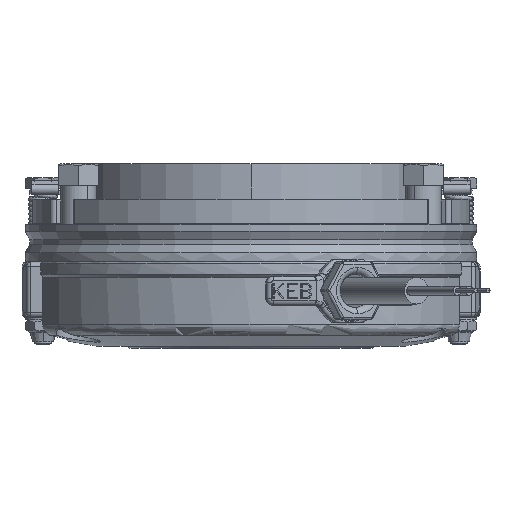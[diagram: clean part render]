
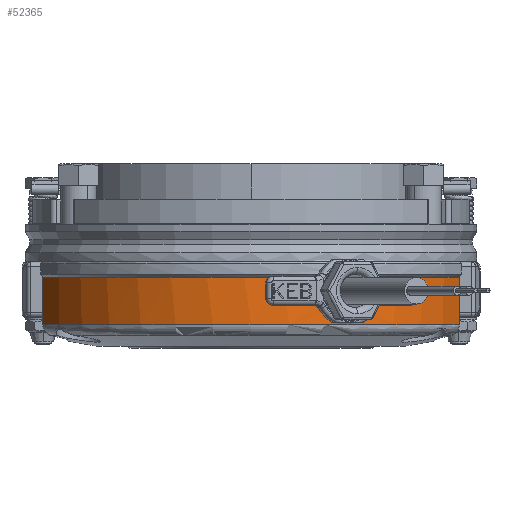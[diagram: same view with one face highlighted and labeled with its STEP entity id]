
A CAD part, front view. The second image highlights one B-rep face of the part: STEP entity #52365.
In plain terms, the highlighted cylindrical face has radius 50.25 mm (diameter 100.5 mm), a partial arc.
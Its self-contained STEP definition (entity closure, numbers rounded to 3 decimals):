
#894 = CARTESIAN_POINT ( 'NONE',  ( 47.044, -17.663, 16. ) ) ;
#1140 = CARTESIAN_POINT ( 'NONE',  ( 25.373, -43.374, 7.573 ) ) ;
#1192 = CARTESIAN_POINT ( 'NONE',  ( 14.603, -48.081, 14.006 ) ) ;
#1488 = CARTESIAN_POINT ( 'NONE',  ( 14.539, -48.101, 12.511 ) ) ;
#1501 = CARTESIAN_POINT ( 'NONE',  ( -47.044, -17.663, 16. ) ) ;
#2041 = CARTESIAN_POINT ( 'NONE',  ( 24.529, -43.857, 6.872 ) ) ;
#3084 = AXIS2_PLACEMENT_3D ( 'NONE', #7679, #8563, #49952 ) ;
#5692 = CARTESIAN_POINT ( 'NONE',  ( 24.749, -43.734, 7.031 ) ) ;
#6040 = CARTESIAN_POINT ( 'NONE',  ( 15.937, -47.657, 8.638 ) ) ;
#6336 = CARTESIAN_POINT ( 'NONE',  ( 14.568, -48.092, 13.705 ) ) ;
#6596 = CARTESIAN_POINT ( 'NONE',  ( 23.342, -44.501, 6.24 ) ) ;
#6769 = CARTESIAN_POINT ( 'NONE',  ( 0., 0., 5.287 ) ) ;
#6960 = CARTESIAN_POINT ( 'NONE',  ( 18.569, -46.694, 6.46 ) ) ;
#7476 = CARTESIAN_POINT ( 'NONE',  ( 27.274, -42.205, 11.038 ) ) ;
#7679 = CARTESIAN_POINT ( 'NONE',  ( 0., 0., 16. ) ) ;
#7786 = CARTESIAN_POINT ( 'NONE',  ( 26.941, -42.418, 16. ) ) ;
#7941 = CYLINDRICAL_SURFACE ( 'NONE', #16532, 50.25 ) ;
#8094 = CARTESIAN_POINT ( 'NONE',  ( 21.237, -45.542, 5.85 ) ) ;
#8369 = CARTESIAN_POINT ( 'NONE',  ( 27.308, -42.182, 14.886 ) ) ;
#8561 = DIRECTION ( 'NONE',  ( -1., 0., 0. ) ) ;
#8563 = DIRECTION ( 'NONE',  ( 0., 0., -1. ) ) ;
#8940 = CIRCLE ( 'NONE', #3084, 50.25 ) ;
#9239 = AXIS2_PLACEMENT_3D ( 'NONE', #6769, #37841, #33267 ) ;
#10231 = CARTESIAN_POINT ( 'NONE',  ( 23.835, -44.238, 6.46 ) ) ;
#10619 = CARTESIAN_POINT ( 'NONE',  ( 14.76, -48.033, 14.886 ) ) ;
#11140 = CARTESIAN_POINT ( 'NONE',  ( 21.782, -45.287, 5.85 ) ) ;
#11522 = CARTESIAN_POINT ( 'NONE',  ( 17.595, -47.07, 7.03 ) ) ;
#12743 = B_SPLINE_CURVE_WITH_KNOTS ( 'NONE', 3,
 ( #39206, #52358, #10619, #1192, #6336, #24888, #1488, #29191, #47780, #53244, #39496, #43795, #6040, #52939, #58046, #16059, #11522, #30088, #48676, #6960, #25481, #16379, #20022, #24587, #57470 ),
 .UNSPECIFIED., .F., .F.,
 ( 4, 2, 2, 1, 2, 2, 2, 2, 2, 2, 2, 2, 4 ),
 ( 0., 0.002, 0.003, 0.004, 0.004, 0.005, 0.007, 0.009, 0.01, 0.011, 0.012, 0.012, 0.014 ),
 .UNSPECIFIED. ) ;
#13210 = VERTEX_POINT ( 'NONE', #14740 ) ;
#13434 = LINE ( 'NONE', #59394, #54148 ) ;
#13447 = CARTESIAN_POINT ( 'NONE',  ( 15.177, -47.903, 16. ) ) ;
#14637 = EDGE_CURVE ( 'NONE', #42338, #23918, #46172, .T. ) ;
#14740 = CARTESIAN_POINT ( 'NONE',  ( 26.941, -42.418, 16. ) ) ;
#15088 = CARTESIAN_POINT ( 'NONE',  ( 26.264, -42.841, 8.639 ) ) ;
#15342 = FACE_OUTER_BOUND ( 'NONE', #21882, .T. ) ;
#16059 = CARTESIAN_POINT ( 'NONE',  ( 17.138, -47.238, 7.381 ) ) ;
#16306 = CARTESIAN_POINT ( 'NONE',  ( 27.115, -42.307, 10.472 ) ) ;
#16379 = CARTESIAN_POINT ( 'NONE',  ( 19.352, -46.375, 6.147 ) ) ;
#16444 = ORIENTED_EDGE ( 'NONE', *, *, #53493, .T. ) ;
#16532 = AXIS2_PLACEMENT_3D ( 'NONE', #55437, #56005, #22814 ) ;
#16956 = AXIS2_PLACEMENT_3D ( 'NONE', #23152, #18270, #8561 ) ;
#17014 = ORIENTED_EDGE ( 'NONE', *, *, #33981, .F. ) ;
#17701 = DIRECTION ( 'NONE',  ( 0., 0., 1. ) ) ;
#18270 = DIRECTION ( 'NONE',  ( 0., 0., -1. ) ) ;
#20022 = CARTESIAN_POINT ( 'NONE',  ( 20.151, -46.036, 5.925 ) ) ;
#20276 = CARTESIAN_POINT ( 'NONE',  ( 25.938, -43.041, 8.183 ) ) ;
#21882 = EDGE_LOOP ( 'NONE', ( #17014, #47480, #22494, #39527, #56509, #16444, #55696 ) ) ;
#22494 = ORIENTED_EDGE ( 'NONE', *, *, #54179, .T. ) ;
#22814 = DIRECTION ( 'NONE',  ( -1., 0., 0. ) ) ;
#23152 = CARTESIAN_POINT ( 'NONE',  ( 0., 0., 16. ) ) ;
#23918 = VERTEX_POINT ( 'NONE', #1501 ) ;
#24230 = CARTESIAN_POINT ( 'NONE',  ( 25.17, -43.492, 7.381 ) ) ;
#24521 = VECTOR ( 'NONE', #45484, 1000. ) ;
#24523 = CARTESIAN_POINT ( 'NONE',  ( 26.679, -42.583, 9.397 ) ) ;
#24587 = CARTESIAN_POINT ( 'NONE',  ( 20.691, -45.797, 5.85 ) ) ;
#24686 = VERTEX_POINT ( 'NONE', #60095 ) ;
#24828 = CARTESIAN_POINT ( 'NONE',  ( 24.072, -44.11, 6.587 ) ) ;
#24888 = CARTESIAN_POINT ( 'NONE',  ( 14.535, -48.102, 13.107 ) ) ;
#25481 = CARTESIAN_POINT ( 'NONE',  ( 19.086, -46.485, 6.24 ) ) ;
#26892 = CARTESIAN_POINT ( 'NONE',  ( -47.044, -17.663, -2.187 ) ) ;
#26920 = CARTESIAN_POINT ( 'NONE',  ( 27.156, -42.281, 15.453 ) ) ;
#29129 = CARTESIAN_POINT ( 'NONE',  ( 26.803, -42.505, 9.66 ) ) ;
#29191 = CARTESIAN_POINT ( 'NONE',  ( 14.614, -48.078, 11.92 ) ) ;
#29711 = CARTESIAN_POINT ( 'NONE',  ( 23.087, -44.633, 6.147 ) ) ;
#30088 = CARTESIAN_POINT ( 'NONE',  ( 17.831, -46.981, 6.871 ) ) ;
#31204 = CARTESIAN_POINT ( 'NONE',  ( 27.436, -42.099, 11.919 ) ) ;
#33267 = DIRECTION ( 'NONE',  ( 1., 0., 0. ) ) ;
#33981 = EDGE_CURVE ( 'NONE', #42338, #40702, #12743, .T. ) ;
#35734 = LINE ( 'NONE', #26892, #24521 ) ;
#36068 = CARTESIAN_POINT ( 'NONE',  ( 27.021, -42.367, 10.197 ) ) ;
#37841 = DIRECTION ( 'NONE',  ( 0., 0., 1. ) ) ;
#38549 = CARTESIAN_POINT ( 'NONE',  ( 22.315, -45.027, 5.925 ) ) ;
#39206 = CARTESIAN_POINT ( 'NONE',  ( 15.177, -47.903, 16. ) ) ;
#39496 = CARTESIAN_POINT ( 'NONE',  ( 15.07, -47.937, 10.189 ) ) ;
#39527 = ORIENTED_EDGE ( 'NONE', *, *, #56153, .T. ) ;
#39660 = EDGE_CURVE ( 'NONE', #54715, #41424, #13434, .T. ) ;
#40306 = CARTESIAN_POINT ( 'NONE',  ( 27.338, -42.162, 11.329 ) ) ;
#40702 = VERTEX_POINT ( 'NONE', #8094 ) ;
#41424 = VERTEX_POINT ( 'NONE', #894 ) ;
#42338 = VERTEX_POINT ( 'NONE', #13447 ) ;
#43795 = CARTESIAN_POINT ( 'NONE',  ( 15.315, -47.86, 9.652 ) ) ;
#44138 = CARTESIAN_POINT ( 'NONE',  ( 47.044, -17.663, 5.287 ) ) ;
#44305 = CARTESIAN_POINT ( 'NONE',  ( 27.446, -42.092, 14.003 ) ) ;
#44628 = CARTESIAN_POINT ( 'NONE',  ( 27.469, -42.077, 12.214 ) ) ;
#45484 = DIRECTION ( 'NONE',  ( 0., 0., -1. ) ) ;
#46172 = CIRCLE ( 'NONE', #16956, 50.25 ) ;
#46176 = CIRCLE ( 'NONE', #9239, 50.25 ) ;
#47480 = ORIENTED_EDGE ( 'NONE', *, *, #14637, .T. ) ;
#47780 = CARTESIAN_POINT ( 'NONE',  ( 14.725, -48.044, 11.332 ) ) ;
#48004 = CARTESIAN_POINT ( 'NONE',  ( 21.237, -45.542, 5.85 ) ) ;
#48676 = CARTESIAN_POINT ( 'NONE',  ( 18.318, -46.793, 6.586 ) ) ;
#48892 = CARTESIAN_POINT ( 'NONE',  ( 27.505, -42.054, 13.105 ) ) ;
#49952 = DIRECTION ( 'NONE',  ( -1., 0., 0. ) ) ;
#50078 = CARTESIAN_POINT ( 'NONE',  ( 27.477, -42.072, 13.702 ) ) ;
#50491 = EDGE_CURVE ( 'NONE', #40702, #13210, #57135, .T. ) ;
#52358 = CARTESIAN_POINT ( 'NONE',  ( 14.934, -47.98, 15.453 ) ) ;
#52365 = ADVANCED_FACE ( 'NONE', ( #15342 ), #7941, .T. ) ;
#52939 = CARTESIAN_POINT ( 'NONE',  ( 16.3, -47.535, 8.182 ) ) ;
#53244 = CARTESIAN_POINT ( 'NONE',  ( 14.799, -48.021, 11.039 ) ) ;
#53493 = EDGE_CURVE ( 'NONE', #41424, #13210, #8940, .T. ) ;
#54148 = VECTOR ( 'NONE', #17701, 1000. ) ;
#54179 = EDGE_CURVE ( 'NONE', #23918, #24686, #35734, .T. ) ;
#54715 = VERTEX_POINT ( 'NONE', #44138 ) ;
#55437 = CARTESIAN_POINT ( 'NONE',  ( 0., 0., -2.187 ) ) ;
#55696 = ORIENTED_EDGE ( 'NONE', *, *, #50491, .F. ) ;
#56005 = DIRECTION ( 'NONE',  ( 0., 0., -1. ) ) ;
#56153 = EDGE_CURVE ( 'NONE', #24686, #54715, #46176, .T. ) ;
#56509 = ORIENTED_EDGE ( 'NONE', *, *, #39660, .T. ) ;
#57135 = B_SPLINE_CURVE_WITH_KNOTS ( 'NONE', 3,
 ( #48004, #11140, #38549, #29711, #6596, #10231, #24828, #2041, #5692, #24230, #1140, #20276, #15088, #24523, #29129, #36068, #16306, #7476, #40306, #31204, #44628, #59190, #48892, #50078, #44305, #8369, #26920, #7786 ),
 .UNSPECIFIED., .F., .F.,
 ( 4, 2, 2, 2, 2, 2, 2, 2, 2, 2, 2, 2, 2, 4 ),
 ( 0.014, 0.016, 0.017, 0.018, 0.019, 0.02, 0.021, 0.022, 0.023, 0.024, 0.025, 0.026, 0.027, 0.029 ),
 .UNSPECIFIED. ) ;
#57470 = CARTESIAN_POINT ( 'NONE',  ( 21.237, -45.542, 5.85 ) ) ;
#58046 = CARTESIAN_POINT ( 'NONE',  ( 16.918, -47.317, 7.573 ) ) ;
#59190 = CARTESIAN_POINT ( 'NONE',  ( 27.504, -42.055, 12.808 ) ) ;
#59394 = CARTESIAN_POINT ( 'NONE',  ( 47.044, -17.663, -2.187 ) ) ;
#60095 = CARTESIAN_POINT ( 'NONE',  ( -47.044, -17.663, 5.287 ) ) ;
